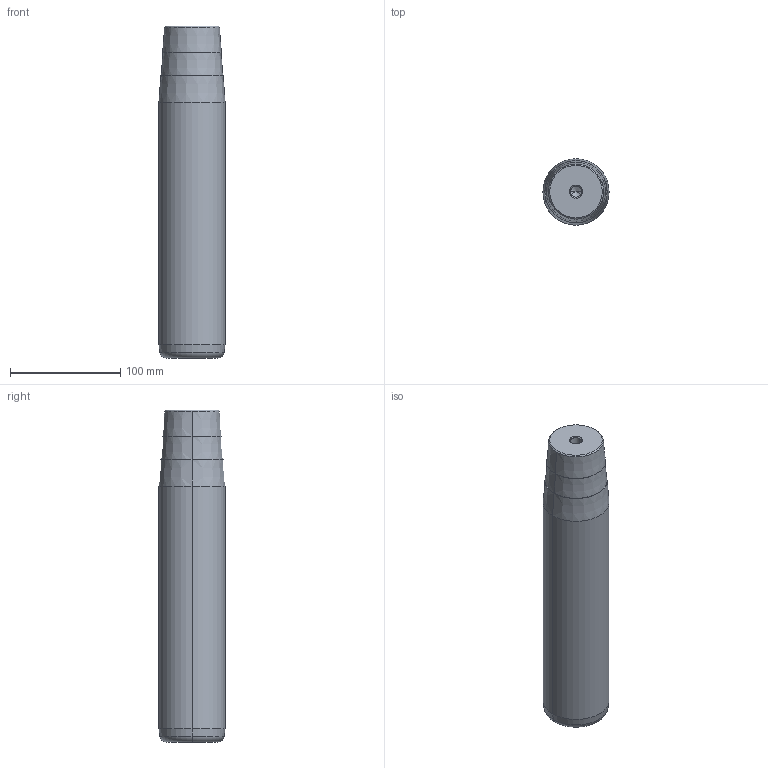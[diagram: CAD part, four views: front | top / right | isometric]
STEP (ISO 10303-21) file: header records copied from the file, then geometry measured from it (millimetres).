
FILE_DESCRIPTION(('CATIA V5 STEP Exchange'),'2;1');
FILE_NAME('C:\Users\Utente\Desktop\IO LAVORO\3D X SITO CF\X SITO\722\722-60x250x301.stp','2021-01-07T19:30:12+00:00',('none'),('none'),'CATIA Version 5 Release 20 GA (IN-10)','CATIA V5 STEP AP203','none');
FILE_SCHEMA(('CONFIG_CONTROL_DESIGN'));
Length unit declared in the file: millimetre
Products named in the file (1): 722-60x250x301
Bounding box: 60 x 60 x 301 mm (x, y, z)
Volume: 811162.8 mm3; surface area: 61484.4 mm2
Topology: 1 solids, 1 shells, 32 faces, 66 edges, 34 vertices
Faces by surface type: cone 22, cylinder 6, plane 2, torus 2
Entity records: 866 total; most frequent: CARTESIAN_POINT 189, ORIENTED_EDGE 124, DIRECTION 123, AXIS2_PLACEMENT_3D 64, EDGE_CURVE 62, EDGE_LOOP 34, VERTEX_POINT 34, ADVANCED_FACE 32
